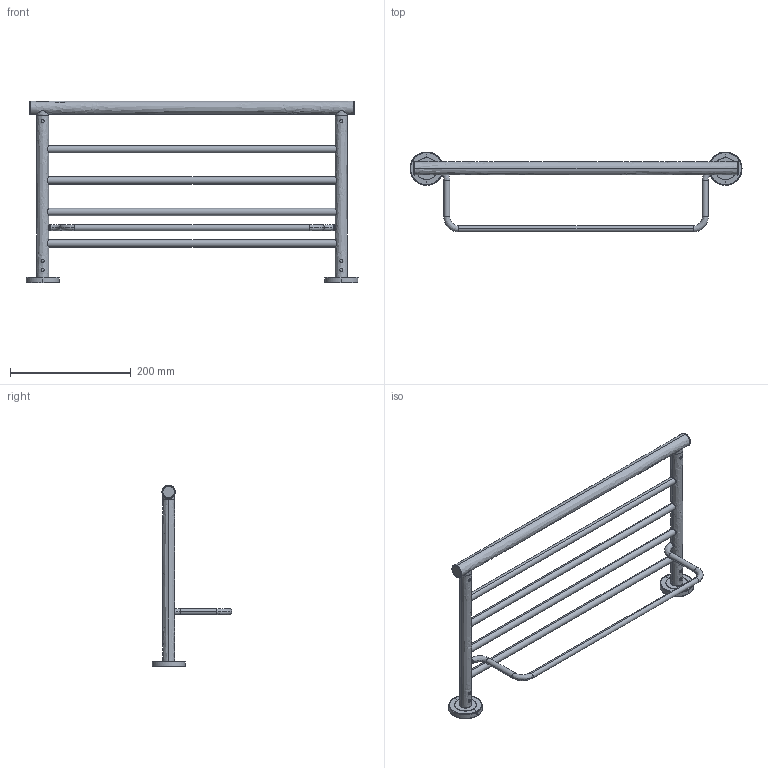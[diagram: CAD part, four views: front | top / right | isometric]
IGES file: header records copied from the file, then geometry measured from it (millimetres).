
Start section: SolidWorks IGES file using NURBS representation for surfaces
Global section: file name: G:\4- VARIOS\9 - Web Files\ARCHITECT S+\235##68-W.IGS; native system: SolidWorks 2016; preprocessor: SolidWorks 2016; author: vegrut01; date: 201027.105554; units: millimetre
Bounding box: 550 x 132.5 x 300.8 mm (x, y, z)
Surface area: 181748.8 mm2 (no closed solid volume)
Topology: 0 solids, 0 shells, 106 faces, 3082 edges, 3380 vertices
Faces by surface type: bspline 106
